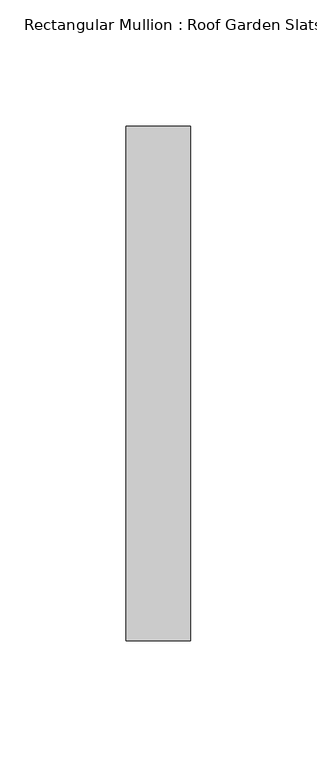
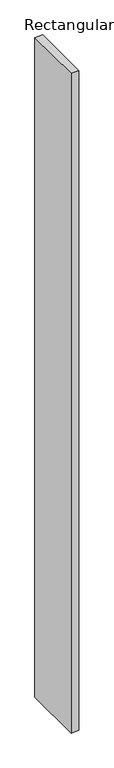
"""IFC4 building model written with IfcOpenShell, lengths in millimetres: member geometry, Rectangular Mullion : Roof Garden Slats."""

from ifc_helpers import new_model, si_unit, frame, origin, place, context, project, spatial, polyline, outline, extrude, source, transform, mapped, element, save


def rectangular_mullion_roof_garden_slats_9a95671b(model_context):
    return source(origin(), model_context, "Body", "SweptSolid", [
        extrude(outline(polyline([(12.7, 139.7), (12.7, -63.5), (-12.7, -63.5), (-12.7, 139.7), (12.7, 139.7)])), frame((0.0, 0.0, -2264.0781603), z_axis=(0.0, 0.0, 1.0), x_axis=(1.0, 0.0, 0.0)), (0.0, 0.0, 1.0), 2264.0781603),
    ])


if __name__ == "__main__":
    model = new_model("IFC4")
    model_context = context("Model", 3, world=origin())
    ifc_project = project(units=[si_unit("LENGTHUNIT", "METRE", prefix="MILLI")], contexts=[model_context])
    site = spatial("IfcSite", under=ifc_project)
    building = spatial("IfcBuilding", under=site)
    placement = place(None, origin())
    rectangular_mullion_roof_garden_slats_shape = rectangular_mullion_roof_garden_slats_9a95671b(model_context)
    element("IfcMember", 1, ObjectType="Rectangular Mullion : Roof Garden Slats", at=placement, inside=building, context=model_context, shape_type="MappedRepresentation", body=[
        mapped(rectangular_mullion_roof_garden_slats_shape, transform((0.0, 0.0, 0.0), x_axis=(1.0, 0.0, 0.0), y_axis=(0.0, 1.0, 0.0), z_axis=(0.0, 0.0, 1.0))),
    ])
    save(model, "model.ifc")
